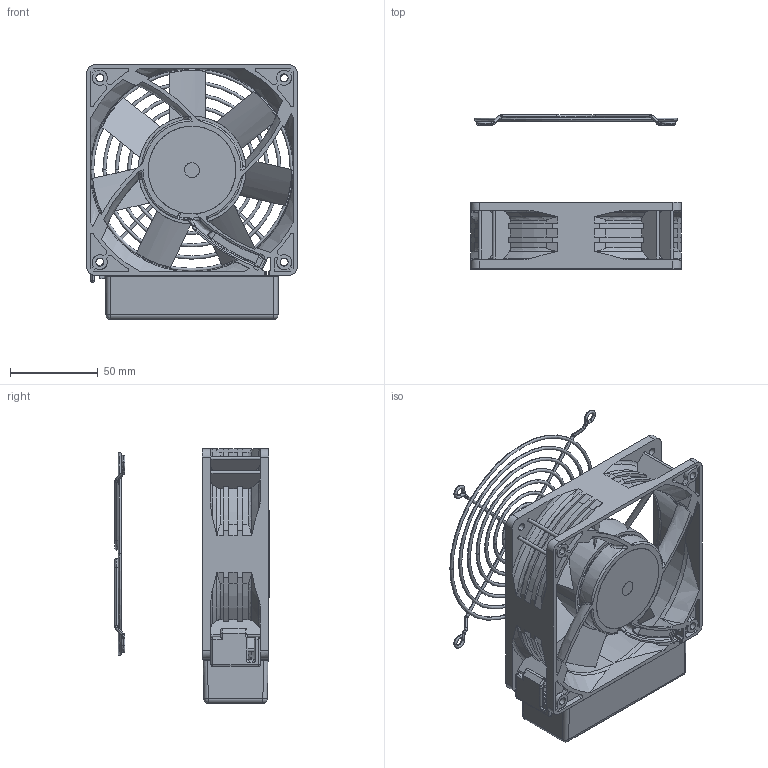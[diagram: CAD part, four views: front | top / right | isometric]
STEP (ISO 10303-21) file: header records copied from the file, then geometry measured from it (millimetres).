
FILE_DESCRIPTION (( 'STEP AP214' ), '1' );
FILE_NAME ('GTW012FU604_3D.STEP', '2017-07-06T02:48:53', ( 'Delta' ), ( '' ), 'SwSTEP 2.0', 'SolidWorks 2011', '' );
FILE_SCHEMA (( 'AUTOMOTIVE_DESIGN' ));
Length unit declared in the file: millimetre
Products named in the file (5): 3421061900; Impeller_410042780000a; Frame_4102080700_01c; GTW012FU604_3D; 410502310001
Assembly tree (4 placements, depth 2):
  GTW012FU604_3D
    3421061900
    410502310001
    Frame_4102080700_01c
    Impeller_410042780000a
Bounding box: 120 x 87.79 x 145 mm (x, y, z)
Volume: 122269.7 mm3; surface area: 122445.4 mm2
Topology: 15 solids, 15 shells, 1503 faces, 4112 edges, 2582 vertices
Faces by surface type: cylinder 607, plane 476, bspline 190, torus 121, cone 57, sphere 52
Entity records: 68887 total; most frequent: CARTESIAN_POINT 34157, ORIENTED_EDGE 8110, DIRECTION 5965, EDGE_CURVE 4055, VERTEX_POINT 2582, AXIS2_PLACEMENT_3D 2148, LINE 1669, VECTOR 1669
